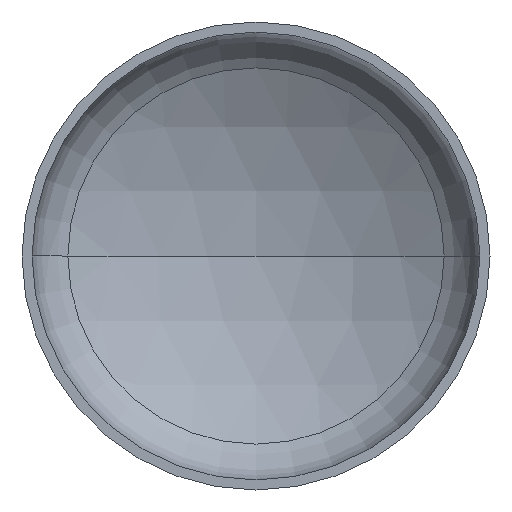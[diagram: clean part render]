
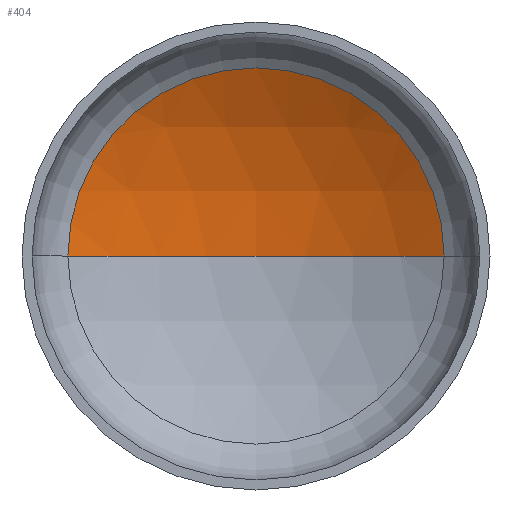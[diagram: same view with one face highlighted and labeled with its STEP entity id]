
A CAD part, front view. The second image highlights one B-rep face of the part: STEP entity #404.
In plain terms, the highlighted spherical face has radius 1040 mm.
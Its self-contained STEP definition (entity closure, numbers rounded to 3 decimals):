
#1 = CARTESIAN_POINT ( 'NONE',  ( 0., -641.303, 0. ) ) ;
#11 = CARTESIAN_POINT ( 'NONE',  ( 0., -641.303, 0. ) ) ;
#13 = ORIENTED_EDGE ( 'NONE', *, *, #74, .T. ) ;
#17 = CARTESIAN_POINT ( 'NONE',  ( 0., 398.697, 0. ) ) ;
#22 = CIRCLE ( 'NONE', #29, 1040. ) ;
#26 = EDGE_LOOP ( 'NONE', ( #104, #84, #13 ) ) ;
#29 = AXIS2_PLACEMENT_3D ( 'NONE', #11, #197, #366 ) ;
#30 = AXIS2_PLACEMENT_3D ( 'NONE', #1, #312, #240 ) ;
#31 = AXIS2_PLACEMENT_3D ( 'NONE', #192, #194, #390 ) ;
#36 = FACE_OUTER_BOUND ( 'NONE', #26, .T. ) ;
#38 = CARTESIAN_POINT ( 'NONE',  ( 522.476, 257.929, 0. ) ) ;
#74 = EDGE_CURVE ( 'NONE', #261, #153, #360, .T. ) ;
#76 = EDGE_CURVE ( 'NONE', #145, #261, #294, .T. ) ;
#77 = EDGE_CURVE ( 'NONE', #145, #153, #22, .T. ) ;
#82 = DIRECTION ( 'NONE',  ( 0., 0., -1. ) ) ;
#84 = ORIENTED_EDGE ( 'NONE', *, *, #76, .T. ) ;
#104 = ORIENTED_EDGE ( 'NONE', *, *, #77, .F. ) ;
#145 = VERTEX_POINT ( 'NONE', #17 ) ;
#153 = VERTEX_POINT ( 'NONE', #266 ) ;
#192 = CARTESIAN_POINT ( 'NONE',  ( 0., 257.929, 0. ) ) ;
#194 = DIRECTION ( 'NONE',  ( 0., -1., 0. ) ) ;
#197 = DIRECTION ( 'NONE',  ( 0., 0., 1. ) ) ;
#226 = CARTESIAN_POINT ( 'NONE',  ( 0., -641.303, 0. ) ) ;
#240 = DIRECTION ( 'NONE',  ( -1., 0., 0. ) ) ;
#261 = VERTEX_POINT ( 'NONE', #38 ) ;
#266 = CARTESIAN_POINT ( 'NONE',  ( -522.476, 257.929, 0. ) ) ;
#294 = CIRCLE ( 'NONE', #30, 1040. ) ;
#299 = SPHERICAL_SURFACE ( 'NONE', #410, 1040. ) ;
#312 = DIRECTION ( 'NONE',  ( 0., 0., -1. ) ) ;
#360 = CIRCLE ( 'NONE', #31, 522.476 ) ;
#366 = DIRECTION ( 'NONE',  ( 1., 0., 0. ) ) ;
#390 = DIRECTION ( 'NONE',  ( 1., 0., 0. ) ) ;
#404 = ADVANCED_FACE ( 'NONE', ( #36 ), #299, .F. ) ;
#408 = DIRECTION ( 'NONE',  ( -1., 0., 0. ) ) ;
#410 = AXIS2_PLACEMENT_3D ( 'NONE', #226, #82, #408 ) ;
